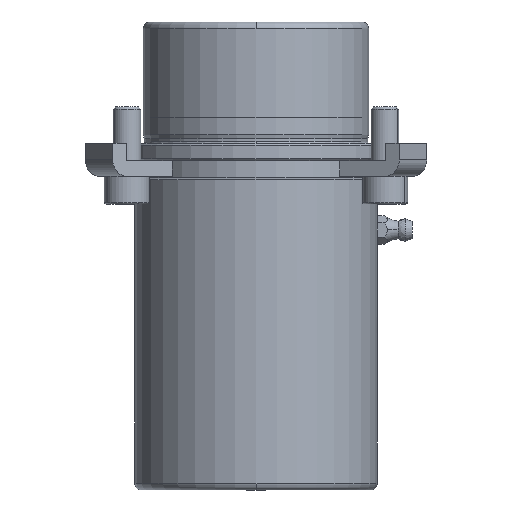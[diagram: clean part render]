
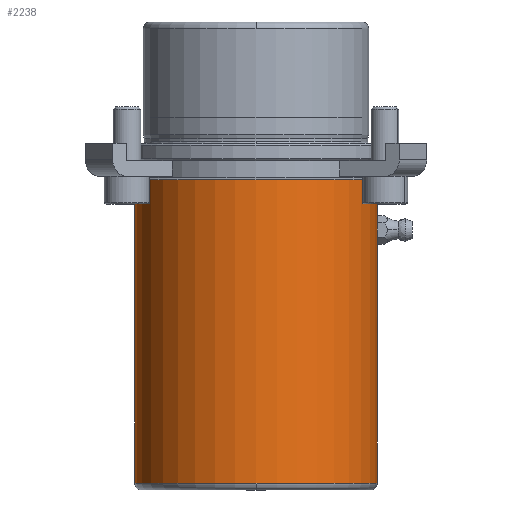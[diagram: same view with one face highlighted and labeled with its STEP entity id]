
A CAD part, front view. The second image highlights one B-rep face of the part: STEP entity #2238.
In plain terms, the highlighted cylindrical face has radius 35 mm (diameter 70 mm), a partial arc.
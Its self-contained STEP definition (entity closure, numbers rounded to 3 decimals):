
#604=CARTESIAN_POINT('',(0.,-35.,-98.));
#605=VERTEX_POINT('',#604);
#613=CARTESIAN_POINT('',(-35.0,0.,-98.0));
#614=VERTEX_POINT('',#613);
#615=CARTESIAN_POINT('',(0.0,0.,-98.0));
#616=DIRECTION('',(0.0,0.0,-1.0));
#617=DIRECTION('',(1.0,0.0,0.0));
#618=AXIS2_PLACEMENT_3D('',#615,#616,#617);
#619=CIRCLE('',#618,35.0);
#620=EDGE_CURVE('',#605,#614,#619,.T.);
#637=CARTESIAN_POINT('',(35.0,0.,-98.0));
#638=VERTEX_POINT('',#637);
#639=CARTESIAN_POINT('',(35.0,0.,-27.5));
#640=VERTEX_POINT('',#639);
#641=CARTESIAN_POINT('',(35.0,0.,-98.0));
#642=DIRECTION('',(0.0,0.0,1.0));
#643=VECTOR('',#642,70.5);
#644=LINE('',#641,#643);
#645=EDGE_CURVE('',#638,#640,#644,.T.);
#655=CARTESIAN_POINT('',(-35.0,0.,-10.5));
#656=VERTEX_POINT('',#655);
#657=CARTESIAN_POINT('',(-35.0,0.,-98.0));
#658=DIRECTION('',(0.0,0.0,1.0));
#659=VECTOR('',#658,87.5);
#660=LINE('',#657,#659);
#661=EDGE_CURVE('',#614,#656,#660,.T.);
#663=CARTESIAN_POINT('',(35.0,0.,-10.5));
#664=VERTEX_POINT('',#663);
#672=CARTESIAN_POINT('',(35.0,0.,-22.5));
#673=VERTEX_POINT('',#672);
#674=CARTESIAN_POINT('',(35.0,0.,-22.5));
#675=DIRECTION('',(0.0,0.0,1.0));
#676=VECTOR('',#675,12.0);
#677=LINE('',#674,#676);
#678=EDGE_CURVE('',#673,#664,#677,.T.);
#1579=CARTESIAN_POINT('',(34.911,-2.5,-25.0));
#1580=VERTEX_POINT('',#1579);
#1581=CARTESIAN_POINT('',(34.911,-2.5,-25.0));
#1582=CARTESIAN_POINT('',(34.911,-2.5,-24.843));
#1583=CARTESIAN_POINT('',(34.912,-2.485,-24.681));
#1584=CARTESIAN_POINT('',(34.916,-2.422,-24.358));
#1585=CARTESIAN_POINT('',(34.919,-2.373,-24.197));
#1586=CARTESIAN_POINT('',(34.928,-2.246,-23.889));
#1587=CARTESIAN_POINT('',(34.933,-2.166,-23.742));
#1588=CARTESIAN_POINT('',(34.944,-1.983,-23.469));
#1589=CARTESIAN_POINT('',(34.95,-1.879,-23.343));
#1590=CARTESIAN_POINT('',(34.961,-1.657,-23.121));
#1591=CARTESIAN_POINT('',(34.967,-1.531,-23.017));
#1592=CARTESIAN_POINT('',(34.978,-1.258,-22.834));
#1593=CARTESIAN_POINT('',(34.983,-1.111,-22.754));
#1594=CARTESIAN_POINT('',(34.991,-0.803,-22.627));
#1595=CARTESIAN_POINT('',(34.994,-0.642,-22.578));
#1596=CARTESIAN_POINT('',(34.999,-0.319,-22.515));
#1597=CARTESIAN_POINT('',(35.0,-0.157,-22.5));
#1598=CARTESIAN_POINT('',(35.0,0.,-22.5));
#1599=B_SPLINE_CURVE_WITH_KNOTS('',3,(#1581,#1582,#1583,#1584,#1585,#1586,#1587,#1588,#1589,#1590,#1591,#1592,#1593,#1594,#1595,#1596,#1597,#1598),.UNSPECIFIED.,.F.,.U.,(4,2,2,2,2,2,2,2,4),(0.0,0.471,0.942,1.413,1.884,2.355,2.826,3.297,3.768),.UNSPECIFIED.);
#1600=EDGE_CURVE('',#1580,#673,#1599,.T.);
#1602=CARTESIAN_POINT('',(35.0,0.,-27.5));
#1603=CARTESIAN_POINT('',(35.0,-0.157,-27.5));
#1604=CARTESIAN_POINT('',(34.999,-0.319,-27.485));
#1605=CARTESIAN_POINT('',(34.994,-0.642,-27.422));
#1606=CARTESIAN_POINT('',(34.991,-0.803,-27.373));
#1607=CARTESIAN_POINT('',(34.983,-1.111,-27.246));
#1608=CARTESIAN_POINT('',(34.978,-1.258,-27.166));
#1609=CARTESIAN_POINT('',(34.967,-1.531,-26.983));
#1610=CARTESIAN_POINT('',(34.961,-1.657,-26.879));
#1611=CARTESIAN_POINT('',(34.95,-1.879,-26.657));
#1612=CARTESIAN_POINT('',(34.944,-1.983,-26.531));
#1613=CARTESIAN_POINT('',(34.933,-2.166,-26.258));
#1614=CARTESIAN_POINT('',(34.928,-2.246,-26.111));
#1615=CARTESIAN_POINT('',(34.919,-2.373,-25.803));
#1616=CARTESIAN_POINT('',(34.916,-2.422,-25.642));
#1617=CARTESIAN_POINT('',(34.912,-2.485,-25.319));
#1618=CARTESIAN_POINT('',(34.911,-2.5,-25.157));
#1619=CARTESIAN_POINT('',(34.911,-2.5,-25.0));
#1620=B_SPLINE_CURVE_WITH_KNOTS('',3,(#1602,#1603,#1604,#1605,#1606,#1607,#1608,#1609,#1610,#1611,#1612,#1613,#1614,#1615,#1616,#1617,#1618,#1619),.UNSPECIFIED.,.F.,.U.,(4,2,2,2,2,2,2,2,4),(11.305,11.776,12.247,12.718,13.189,13.66,14.131,14.602,15.073),.UNSPECIFIED.);
#1621=EDGE_CURVE('',#640,#1580,#1620,.T.);
#2207=CARTESIAN_POINT('',(0.0,0.,-10.5));
#2208=DIRECTION('',(0.0,0.0,-1.0));
#2209=DIRECTION('',(1.0,0.0,0.0));
#2210=AXIS2_PLACEMENT_3D('',#2207,#2208,#2209);
#2211=CIRCLE('',#2210,35.0);
#2212=EDGE_CURVE('',#664,#656,#2211,.T.);
#2217=CARTESIAN_POINT('',(0.0,0.,-54.25));
#2218=DIRECTION('',(0.0,0.,-1.0));
#2219=DIRECTION('',(1.0,0.0,0.0));
#2220=AXIS2_PLACEMENT_3D('',#2217,#2218,#2219);
#2221=CYLINDRICAL_SURFACE('',#2220,35.0);
#2222=ORIENTED_EDGE('',*,*,#645,.T.);
#2223=ORIENTED_EDGE('',*,*,#1621,.T.);
#2224=ORIENTED_EDGE('',*,*,#1600,.T.);
#2225=ORIENTED_EDGE('',*,*,#678,.T.);
#2226=ORIENTED_EDGE('',*,*,#2212,.T.);
#2227=ORIENTED_EDGE('',*,*,#661,.F.);
#2228=ORIENTED_EDGE('',*,*,#620,.F.);
#2229=CARTESIAN_POINT('',(0.0,0.,-98.0));
#2230=DIRECTION('',(0.0,0.0,-1.0));
#2231=DIRECTION('',(1.0,0.0,0.0));
#2232=AXIS2_PLACEMENT_3D('',#2229,#2230,#2231);
#2233=CIRCLE('',#2232,35.0);
#2234=EDGE_CURVE('',#638,#605,#2233,.T.);
#2235=ORIENTED_EDGE('',*,*,#2234,.F.);
#2236=EDGE_LOOP('',(#2222,#2223,#2224,#2225,#2226,#2227,#2228,#2235));
#2237=FACE_OUTER_BOUND('',#2236,.T.);
#2238=ADVANCED_FACE('',(#2237),#2221,.T.);
